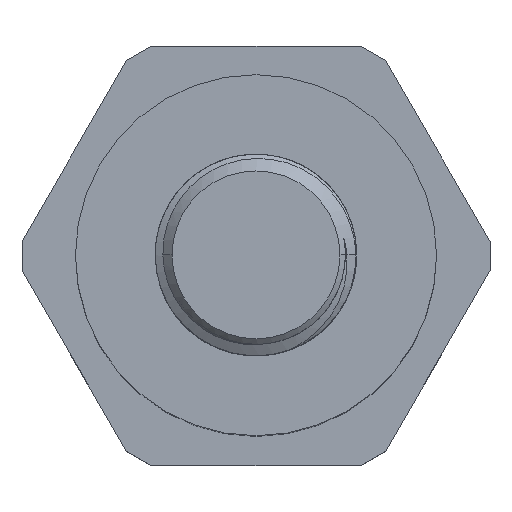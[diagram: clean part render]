
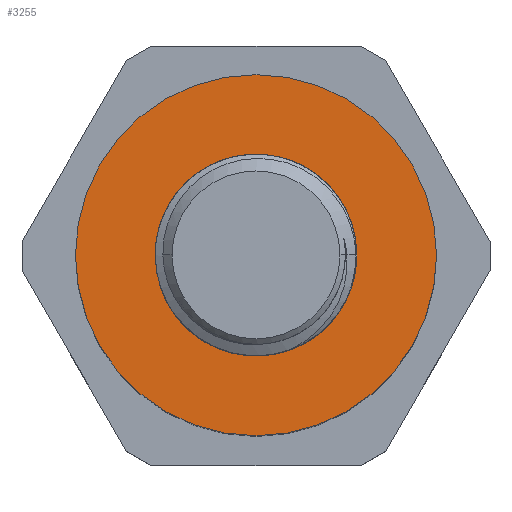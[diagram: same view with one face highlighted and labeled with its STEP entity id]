
A CAD part, top view. The second image highlights one B-rep face of the part: STEP entity #3255.
In plain terms, the highlighted planar face has unit normal (0, 0, 1).
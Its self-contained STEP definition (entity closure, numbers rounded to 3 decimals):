
#825 = DIRECTION ( 'NONE',  ( 1., 0., 0. ) ) ;
#1292 = CIRCLE ( 'NONE', #6994, 10.75 ) ;
#1627 = CIRCLE ( 'NONE', #3115, 10.75 ) ;
#2090 = VERTEX_POINT ( 'NONE', #5587 ) ;
#2995 = CARTESIAN_POINT ( 'NONE',  ( 0., 0., 27.5 ) ) ;
#3115 = AXIS2_PLACEMENT_3D ( 'NONE', #7644, #6636, #9727 ) ;
#3185 = CARTESIAN_POINT ( 'NONE',  ( 0., 0., 27.5 ) ) ;
#3255 = ADVANCED_FACE ( 'NONE', ( #5579 ), #4780, .T. ) ;
#3667 = DIRECTION ( 'NONE',  ( 0., 0., 1. ) ) ;
#3991 = ORIENTED_EDGE ( 'NONE', *, *, #7909, .T. ) ;
#4609 = ORIENTED_EDGE ( 'NONE', *, *, #9825, .T. ) ;
#4780 = PLANE ( 'NONE',  #9163 ) ;
#4918 = EDGE_LOOP ( 'NONE', ( #4609, #3991 ) ) ;
#5579 = FACE_OUTER_BOUND ( 'NONE', #4918, .T. ) ;
#5587 = CARTESIAN_POINT ( 'NONE',  ( -10.75, 0., 27.5 ) ) ;
#6352 = CARTESIAN_POINT ( 'NONE',  ( 10.75, 0., 27.5 ) ) ;
#6636 = DIRECTION ( 'NONE',  ( 0., 0., 1. ) ) ;
#6994 = AXIS2_PLACEMENT_3D ( 'NONE', #2995, #3667, #10012 ) ;
#7052 = DIRECTION ( 'NONE',  ( 0., 0., 1. ) ) ;
#7644 = CARTESIAN_POINT ( 'NONE',  ( 0., 0., 27.5 ) ) ;
#7909 = EDGE_CURVE ( 'NONE', #8653, #2090, #1292, .T. ) ;
#8653 = VERTEX_POINT ( 'NONE', #6352 ) ;
#9163 = AXIS2_PLACEMENT_3D ( 'NONE', #3185, #7052, #825 ) ;
#9727 = DIRECTION ( 'NONE',  ( 1., 0., 0. ) ) ;
#9825 = EDGE_CURVE ( 'NONE', #2090, #8653, #1627, .T. ) ;
#10012 = DIRECTION ( 'NONE',  ( 1., 0., 0. ) ) ;
